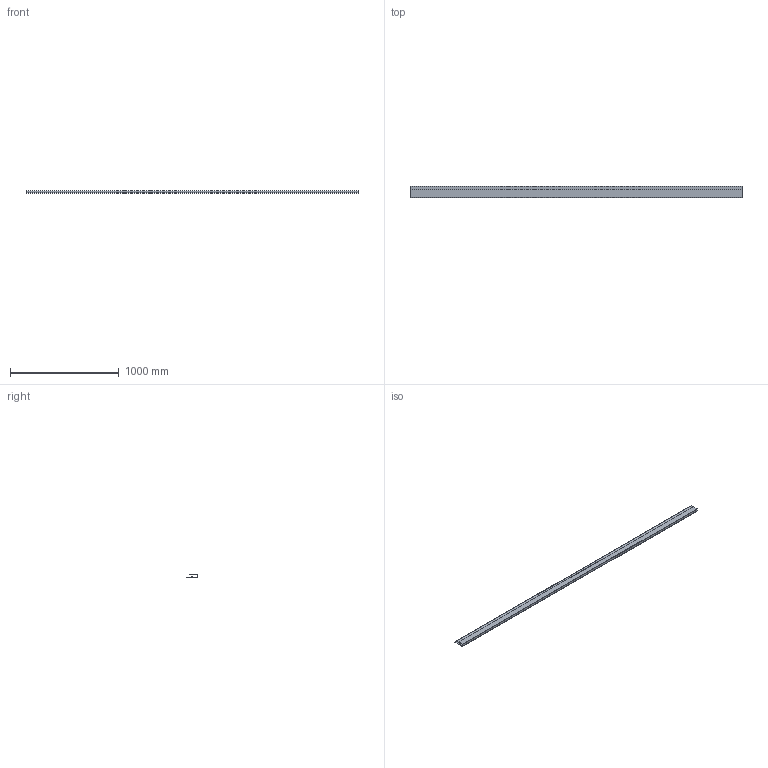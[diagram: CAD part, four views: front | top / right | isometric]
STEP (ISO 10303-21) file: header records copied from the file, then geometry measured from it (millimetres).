
FILE_DESCRIPTION(/* description */ (''),/* implementation_level */ '2;1');
FILE_NAME(/* name */ 'C:\Users\Utilisateur\Mac Metal\Site de communication - Documents\Ingénierie\Développement de produits\Board and Batten\Dessins\Moulures\M04H\M04H.stp',/* time_stamp */ '2022-06-28T16:22:46-04:00',/* author */ ('Utilisateur'),/* organization */ (''),/* preprocessor_version */ 'ST-DEVELOPER v18.1',/* originating_system */ 'Autodesk Inventor 2021',/* authorisation */ '');
FILE_SCHEMA (('AUTOMOTIVE_DESIGN { 1 0 10303 214 3 1 1 }'));
Length unit declared in the file: inch
Products named in the file (3): J-trim; J-trim (moulure de fixation); J-trim (moulure extérieure)
Assembly tree (2 placements, depth 2):
  J-trim
    J-trim (moulure de fixation)
    J-trim (moulure extérieure)
Bounding box: 3048 x 101.09 x 25.27 mm (x, y, z)
Volume: 411225.8 mm3; surface area: 1625441.4 mm2
Topology: 2 solids, 2 shells, 40 faces, 108 edges, 72 vertices
Faces by surface type: plane 26, cylinder 14
Entity records: 1367 total; most frequent: DIRECTION 226, CARTESIAN_POINT 225, ORIENTED_EDGE 216, EDGE_CURVE 108, LINE 80, VECTOR 80, AXIS2_PLACEMENT_3D 73, VERTEX_POINT 72
